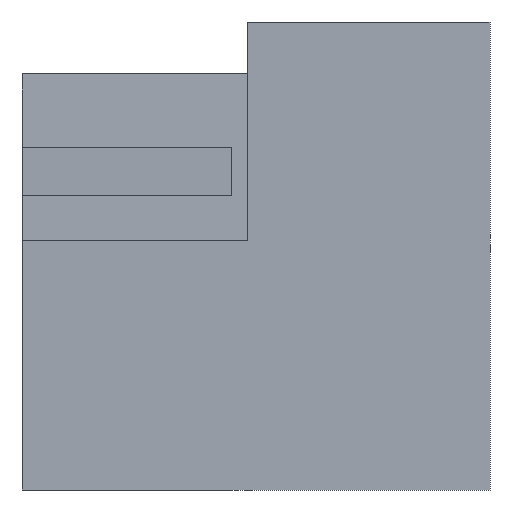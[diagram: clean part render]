
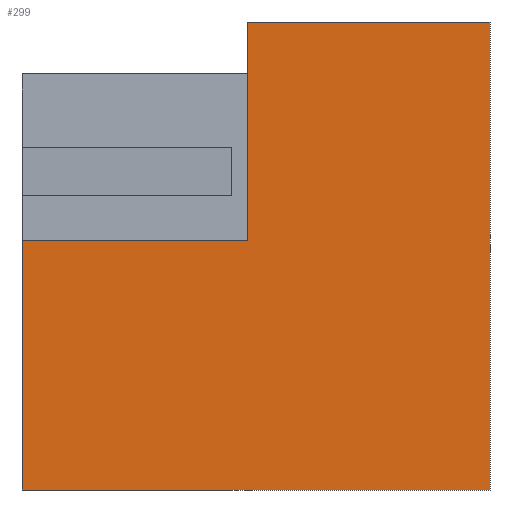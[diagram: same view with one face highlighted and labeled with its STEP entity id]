
A CAD part, front view. The second image highlights one B-rep face of the part: STEP entity #299.
In plain terms, the highlighted planar face has unit normal (0, -1, 0).
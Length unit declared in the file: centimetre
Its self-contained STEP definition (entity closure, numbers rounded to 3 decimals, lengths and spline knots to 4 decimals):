
#6 = CARTESIAN_POINT ( 'NONE',  ( 1000., 0., 1000. ) ) ;
#15 = EDGE_CURVE ( 'NONE', #365, #32, #202, .T. ) ;
#17 = ORIENTED_EDGE ( 'NONE', *, *, #239, .T. ) ;
#19 = CARTESIAN_POINT ( 'NONE',  ( 481.0958, 0., 533.5845 ) ) ;
#29 = CARTESIAN_POINT ( 'NONE',  ( 1000., 0., 1000. ) ) ;
#30 = VERTEX_POINT ( 'NONE', #209 ) ;
#32 = VERTEX_POINT ( 'NONE', #72 ) ;
#40 = DIRECTION ( 'NONE',  ( 0., 0., -1. ) ) ;
#41 = VECTOR ( 'NONE', #242, 100. ) ;
#48 = LINE ( 'NONE', #180, #404 ) ;
#57 = VECTOR ( 'NONE', #124, 100. ) ;
#58 = CARTESIAN_POINT ( 'NONE',  ( 0., 0., 1000. ) ) ;
#72 = CARTESIAN_POINT ( 'NONE',  ( 1000., 0., 0. ) ) ;
#78 = VERTEX_POINT ( 'NONE', #235 ) ;
#90 = EDGE_LOOP ( 'NONE', ( #286, #17, #188, #218, #291, #395 ) ) ;
#101 = VECTOR ( 'NONE', #40, 100. ) ;
#113 = LINE ( 'NONE', #380, #258 ) ;
#124 = DIRECTION ( 'NONE',  ( 0., 0., 1. ) ) ;
#129 = DIRECTION ( 'NONE',  ( 0., 0., 1. ) ) ;
#160 = EDGE_CURVE ( 'NONE', #399, #32, #113, .T. ) ;
#161 = DIRECTION ( 'NONE',  ( 0., 0., -1. ) ) ;
#171 = AXIS2_PLACEMENT_3D ( 'NONE', #393, #290, #129 ) ;
#177 = DIRECTION ( 'NONE',  ( 1., 0., 0. ) ) ;
#180 = CARTESIAN_POINT ( 'NONE',  ( 0., 0., 1000. ) ) ;
#185 = FACE_OUTER_BOUND ( 'NONE', #90, .T. ) ;
#188 = ORIENTED_EDGE ( 'NONE', *, *, #302, .T. ) ;
#193 = VERTEX_POINT ( 'NONE', #229 ) ;
#194 = PLANE ( 'NONE',  #171 ) ;
#197 = VECTOR ( 'NONE', #161, 100. ) ;
#202 = LINE ( 'NONE', #6, #101 ) ;
#209 = CARTESIAN_POINT ( 'NONE',  ( 481.0958, 0., 533.5845 ) ) ;
#218 = ORIENTED_EDGE ( 'NONE', *, *, #160, .T. ) ;
#221 = EDGE_CURVE ( 'NONE', #193, #365, #48, .T. ) ;
#229 = CARTESIAN_POINT ( 'NONE',  ( 481.0958, 0., 1000. ) ) ;
#235 = CARTESIAN_POINT ( 'NONE',  ( 0., 0., 533.5845 ) ) ;
#239 = EDGE_CURVE ( 'NONE', #30, #78, #316, .T. ) ;
#242 = DIRECTION ( 'NONE',  ( -1., 0., 0. ) ) ;
#243 = EDGE_CURVE ( 'NONE', #30, #193, #412, .T. ) ;
#254 = LINE ( 'NONE', #58, #197 ) ;
#258 = VECTOR ( 'NONE', #177, 100. ) ;
#286 = ORIENTED_EDGE ( 'NONE', *, *, #243, .F. ) ;
#290 = DIRECTION ( 'NONE',  ( 0., 1., 0. ) ) ;
#291 = ORIENTED_EDGE ( 'NONE', *, *, #15, .F. ) ;
#299 = ADVANCED_FACE ( 'NONE', ( #185 ), #194, .F. ) ;
#302 = EDGE_CURVE ( 'NONE', #78, #399, #254, .T. ) ;
#312 = DIRECTION ( 'NONE',  ( 1., 0., 0. ) ) ;
#316 = LINE ( 'NONE', #19, #41 ) ;
#321 = CARTESIAN_POINT ( 'NONE',  ( 0., 0., 0. ) ) ;
#344 = CARTESIAN_POINT ( 'NONE',  ( 481.0958, 0., 533.5845 ) ) ;
#365 = VERTEX_POINT ( 'NONE', #29 ) ;
#380 = CARTESIAN_POINT ( 'NONE',  ( 0., 0., 0. ) ) ;
#393 = CARTESIAN_POINT ( 'NONE',  ( 0., 0., 1000. ) ) ;
#395 = ORIENTED_EDGE ( 'NONE', *, *, #221, .F. ) ;
#399 = VERTEX_POINT ( 'NONE', #321 ) ;
#404 = VECTOR ( 'NONE', #312, 100. ) ;
#412 = LINE ( 'NONE', #344, #57 ) ;
